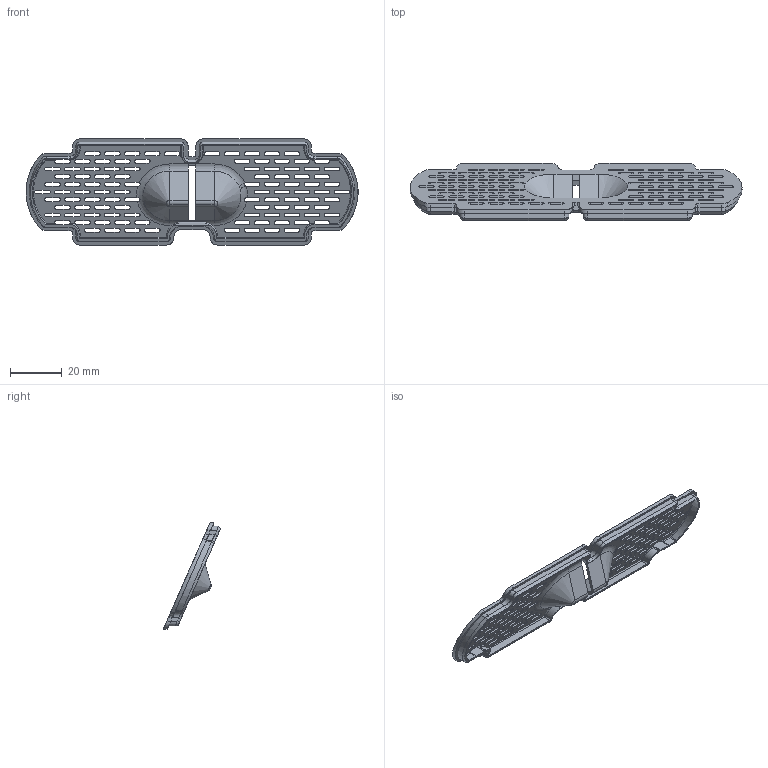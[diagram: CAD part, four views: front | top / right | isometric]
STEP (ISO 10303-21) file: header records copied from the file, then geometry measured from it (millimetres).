
FILE_DESCRIPTION (( 'STEP AP203' ), '1' );
FILE_NAME ('Deckel_V3.STEP', '2026-03-13T17:41:23', ( '' ), ( '' ), 'SwSTEP 2.0', 'SolidWorks 2017', '' );
FILE_SCHEMA (( 'CONFIG_CONTROL_DESIGN' ));
Length unit declared in the file: millimetre
Products named in the file (1): Deckel_V3
Bounding box: 127.95 x 22.06 x 41 mm (x, y, z)
Volume: 6817.5 mm3; surface area: 13115.5 mm2
Topology: 1 solids, 1 shells, 652 faces, 1886 edges, 1227 vertices
Faces by surface type: plane 314, cylinder 281, bspline 50, cone 4, torus 3
Entity records: 26026 total; most frequent: CARTESIAN_POINT 10510, ORIENTED_EDGE 3768, DIRECTION 2410, EDGE_CURVE 1884, VERTEX_POINT 1227, LINE 1144, VECTOR 1144, EDGE_LOOP 855
